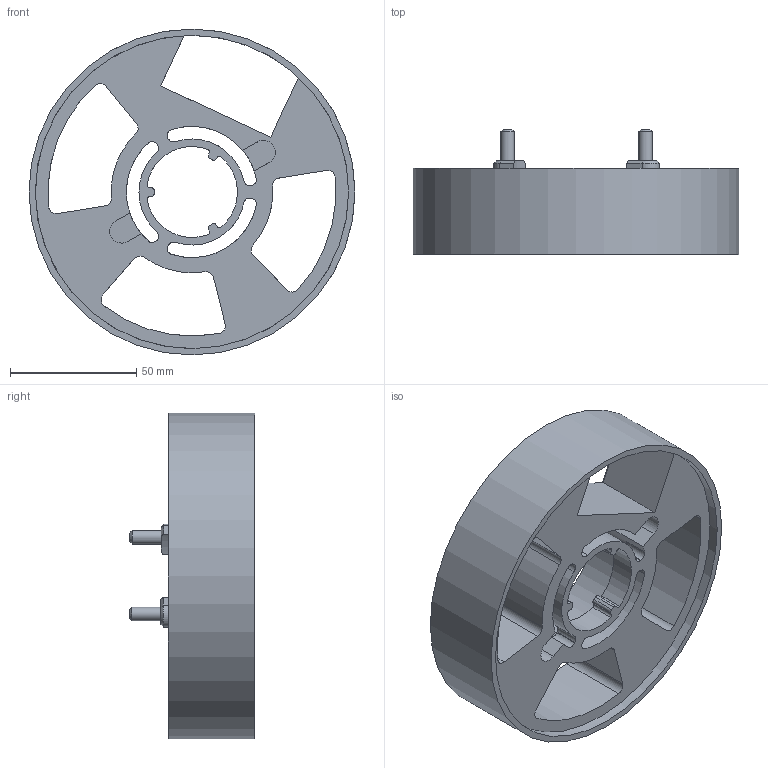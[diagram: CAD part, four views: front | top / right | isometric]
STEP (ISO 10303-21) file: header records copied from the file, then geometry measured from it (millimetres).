
FILE_DESCRIPTION(/* description */ ('STEP AP242','CAx-IF Rec.Pracs.---Representation and Presentation of Product Manufacturing Information (PMI)---4.0---2014-10-13','CAx-IF Rec.Pracs.---3D Tessellated Geometry---0.4---2014-09-14','2;1'),/* implementation_level */ '2;1');
FILE_NAME(/* name */ '66974d45f659a0054fba775a',/* time_stamp */ '2024-07-17T04:49:09Z',/* author */ (''),/* organization */ (''),/* preprocessor_version */ 'ST-DEVELOPER v20',/* originating_system */ ' ',/* authorisation */ ' ');
FILE_SCHEMA (('AP242_MANAGED_MODEL_BASED_3D_ENGINEERING_MIM_LF { 1 0 10303 442 1 1 4 }'));
Length unit declared in the file: metre
Products named in the file (1): Clock Spring Spacer
Bounding box: 129.02 x 49.56 x 129.01 mm (x, y, z)
Volume: 195413 mm3; surface area: 53936.6 mm2
Topology: 1 solids, 1 shells, 135 faces, 363 edges, 230 vertices
Faces by surface type: cylinder 60, plane 52, cone 23
Full cylindrical faces by diameter (mm): 5.35 x2, 52 x1, 124 x1, 129 x1
Entity records: 4261 total; most frequent: DIRECTION 785, CARTESIAN_POINT 726, ORIENTED_EDGE 710, EDGE_CURVE 355, AXIS2_PLACEMENT_3D 296, VERTEX_POINT 229, LINE 193, VECTOR 193
